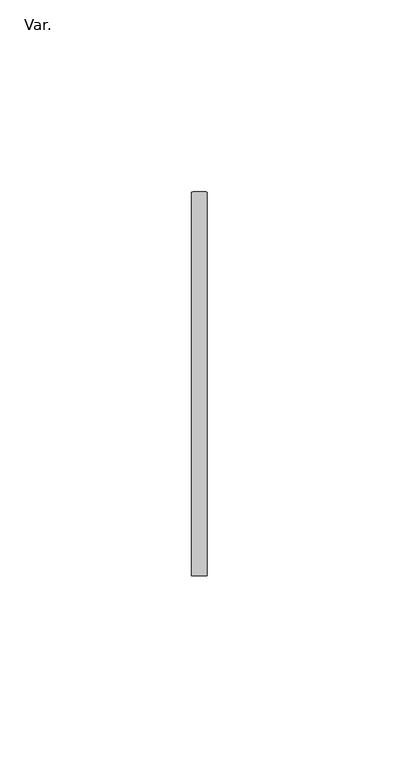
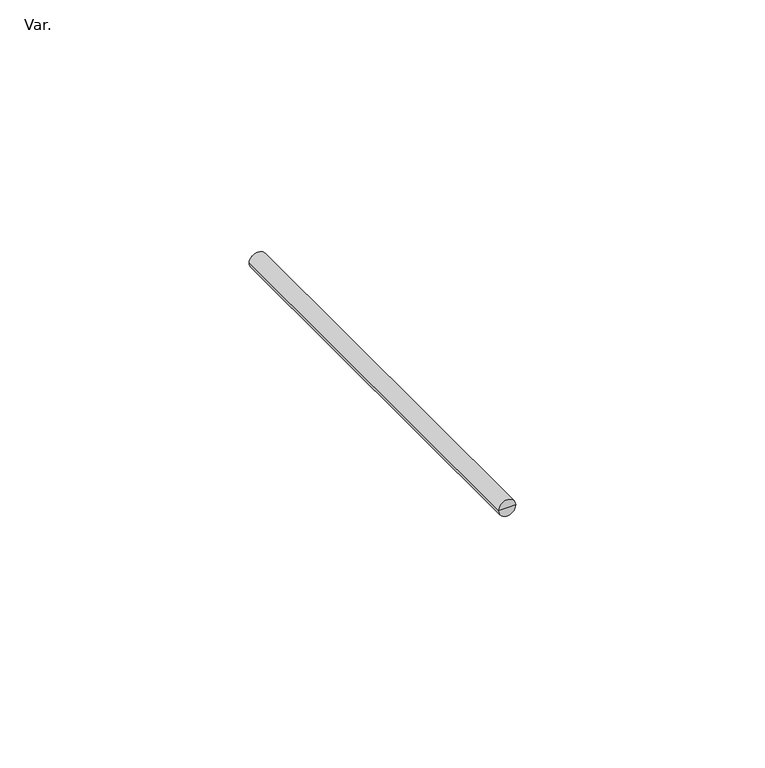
"""IFC4 building model written with IfcOpenShell, lengths in millimetres: pipe fitting geometry, PAVCO_PVC QS Barras Soporte Horizontal : Var.."""

from ifc_helpers import new_model, si_unit, frame, origin, place, context, project, spatial, circle_curve, source, transform, mapped, element, save
from ifc_brep_helpers import plane_surface, cylinder_surface, advanced_brep


def var_d5ed3ae8(model_context):
    return source(origin(), model_context, "Body", "AdvancedBrep", [
        advanced_brep(
        [(2.0, 100.0, 0.0), (-2.0, 100.0, 0.0), (0.0, 100.0, 0.0), (2.0, 0.0, 0.0), (-2.0, 0.0, 0.0), (0.0, 0.0, 0.0)],
        [
            (0, 1, circle_curve(frame((0.0, 100.0, 0.0), z_axis=(0.0, 1.0, 0.0), x_axis=(-1.0, 0.0, 0.0)), 2.0)),
            (1, 2),
            (2, 0),
            (1, 0, circle_curve(frame((0.0, 100.0, 0.0), z_axis=(0.0, 1.0, 0.0), x_axis=(-1.0, 0.0, 0.0)), 2.0)),
            (3, 4, circle_curve(frame((0.0, 0.0, 0.0), z_axis=(0.0, 1.0, 0.0), x_axis=(-1.0, 0.0, 0.0)), 2.0)),
            (4, 1),
            (0, 3),
            (4, 3, circle_curve(frame((0.0, 0.0, 0.0), z_axis=(0.0, 1.0, 0.0), x_axis=(-1.0, 0.0, 0.0)), 2.0)),
            (5, 4),
            (3, 5),
        ],
        [
            plane_surface(frame((0.0, 100.0, 0.0), z_axis=(0.0, 1.0, 0.0), x_axis=(-1.0, 0.0, 0.0))),
            cylinder_surface(frame((0.0, 0.0, 0.0), z_axis=(0.0, -1.0, 0.0), x_axis=(-1.0, 0.0, 0.0)), 2.0),
            plane_surface(frame((0.0, 0.0, 0.0), z_axis=(0.0, -1.0, 0.0), x_axis=(-1.0, 0.0, 0.0))),
        ],
        [
            (0, [[1, 2, 3]]),
            (0, [[4, -3, -2]]),
            (1, [[5, 6, -1, 7]]),
            (1, [[8, -7, -4, -6]]),
            (2, [[9, -5, 10]]),
            (2, [[-10, -8, -9]]),
        ],
    ),
    ])


if __name__ == "__main__":
    model = new_model("IFC4")
    model_context = context("Model", 3, world=origin())
    ifc_project = project(units=[si_unit("LENGTHUNIT", "METRE", prefix="MILLI")], contexts=[model_context])
    site = spatial("IfcSite", under=ifc_project)
    building = spatial("IfcBuilding", under=site)
    placement = place(None, origin())
    var_shape = var_d5ed3ae8(model_context)
    element("IfcPipeFitting", 1, ObjectType="PAVCO_PVC QS Barras Soporte Horizontal : Var.", at=placement, inside=building, context=model_context, shape_type="MappedRepresentation", body=[
        mapped(var_shape, transform((0.0, 0.0, 0.0), x_axis=(1.0, 0.0, 0.0), y_axis=(0.0, 1.0, 0.0), z_axis=(0.0, 0.0, 1.0))),
    ])
    save(model, "model.ifc")
